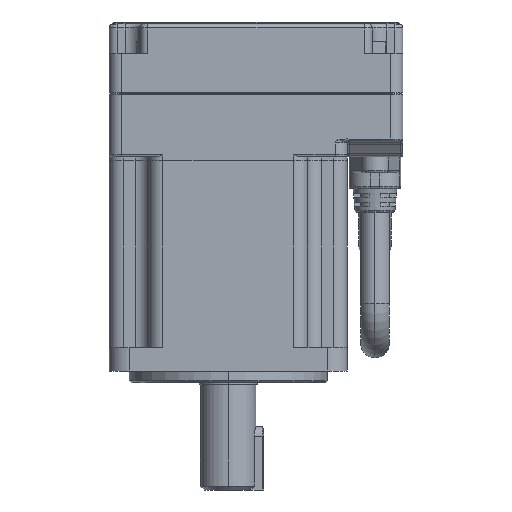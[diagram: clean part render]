
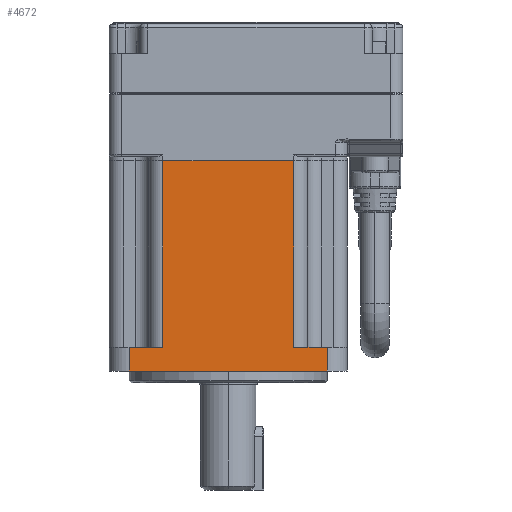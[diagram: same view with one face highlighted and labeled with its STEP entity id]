
A CAD part, left-side view. The second image highlights one B-rep face of the part: STEP entity #4672.
In plain terms, the highlighted planar face has unit normal (-1, 0, 0).
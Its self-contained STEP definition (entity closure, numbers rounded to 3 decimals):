
#2197=DIRECTION('',(0.,-1.,0.));
#2198=VECTOR('',#2197,33.);
#2199=CARTESIAN_POINT('',(-30.,115.245,157.728));
#2200=LINE('',#2199,#2198);
#2201=DIRECTION('',(0.,-1.,0.));
#2202=VECTOR('',#2201,50.);
#2203=CARTESIAN_POINT('',(-30.,123.745,104.728));
#2204=LINE('',#2203,#2202);
#2232=DIRECTION('',(0.,-1.,0.));
#2233=VECTOR('',#2232,8.5);
#2234=CARTESIAN_POINT('',(-30.,123.745,110.728));
#2235=LINE('',#2234,#2233);
#2383=DIRECTION('',(0.,-1.,0.));
#2384=VECTOR('',#2383,8.5);
#2385=CARTESIAN_POINT('',(-30.,82.245,110.728));
#2386=LINE('',#2385,#2384);
#2429=DIRECTION('',(0.,0.,-1.));
#2430=VECTOR('',#2429,47.);
#2431=CARTESIAN_POINT('',(-30.,82.245,157.728));
#2432=LINE('',#2431,#2430);
#2480=DIRECTION('',(0.,0.,-1.));
#2481=VECTOR('',#2480,6.);
#2482=CARTESIAN_POINT('',(-30.,73.745,110.728));
#2483=LINE('',#2482,#2481);
#2645=DIRECTION('',(0.,0.,1.));
#2646=VECTOR('',#2645,47.);
#2647=CARTESIAN_POINT('',(-30.,115.245,110.728));
#2648=LINE('',#2647,#2646);
#2649=DIRECTION('',(0.,0.,1.));
#2650=VECTOR('',#2649,6.);
#2651=CARTESIAN_POINT('',(-30.,123.745,104.728));
#2652=LINE('',#2651,#2650);
#2755=CARTESIAN_POINT('',(-30.,123.745,104.728));
#2756=CARTESIAN_POINT('',(-30.,123.745,110.728));
#2757=VERTEX_POINT('',#2755);
#2758=VERTEX_POINT('',#2756);
#2828=CARTESIAN_POINT('',(-30.,82.245,110.728));
#2830=VERTEX_POINT('',#2828);
#2925=CARTESIAN_POINT('',(-30.,73.745,110.728));
#2926=VERTEX_POINT('',#2925);
#3039=CARTESIAN_POINT('',(-30.,73.745,104.728));
#3040=VERTEX_POINT('',#3039);
#3049=CARTESIAN_POINT('',(-30.,115.245,110.728));
#3050=CARTESIAN_POINT('',(-30.,115.245,157.728));
#3051=VERTEX_POINT('',#3049);
#3052=VERTEX_POINT('',#3050);
#3091=CARTESIAN_POINT('',(-30.,82.245,157.728));
#3092=VERTEX_POINT('',#3091);
#4650=CARTESIAN_POINT('',(-30.,68.745,157.728));
#4651=DIRECTION('',(1.,0.,0.));
#4652=DIRECTION('',(0.,0.,1.));
#4653=AXIS2_PLACEMENT_3D('',#4650,#4651,#4652);
#4654=PLANE('',#4653);
#4656=ORIENTED_EDGE('',*,*,#4655,.T.);
#4658=ORIENTED_EDGE('',*,*,#4657,.T.);
#4660=ORIENTED_EDGE('',*,*,#4659,.T.);
#4662=ORIENTED_EDGE('',*,*,#4661,.T.);
#4664=ORIENTED_EDGE('',*,*,#4663,.T.);
#4666=ORIENTED_EDGE('',*,*,#4665,.T.);
#4667=ORIENTED_EDGE('',*,*,#4602,.F.);
#4669=ORIENTED_EDGE('',*,*,#4668,.T.);
#4670=EDGE_LOOP('',(#4656,#4658,#4660,#4662,#4664,#4666,#4667,#4669));
#4671=FACE_OUTER_BOUND('',#4670,.F.);
#4672=ADVANCED_FACE('',(#4671),#4654,.F.);
#4602=EDGE_CURVE('',#2757,#3040,#2204,.T.);
#4655=EDGE_CURVE('',#2758,#3051,#2235,.T.);
#4657=EDGE_CURVE('',#3051,#3052,#2648,.T.);
#4659=EDGE_CURVE('',#3052,#3092,#2200,.T.);
#4661=EDGE_CURVE('',#3092,#2830,#2432,.T.);
#4663=EDGE_CURVE('',#2830,#2926,#2386,.T.);
#4665=EDGE_CURVE('',#2926,#3040,#2483,.T.);
#4668=EDGE_CURVE('',#2757,#2758,#2652,.T.);
